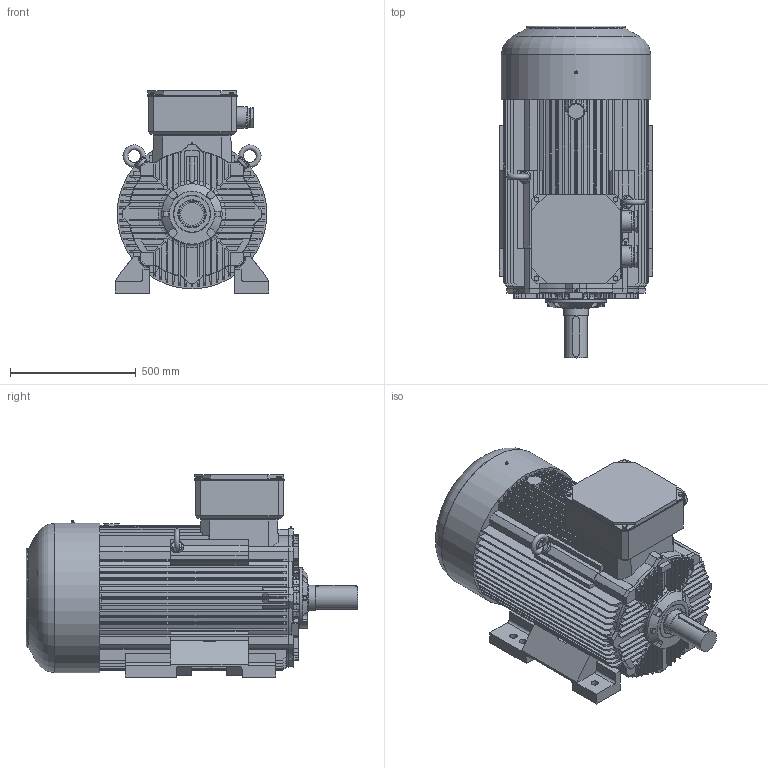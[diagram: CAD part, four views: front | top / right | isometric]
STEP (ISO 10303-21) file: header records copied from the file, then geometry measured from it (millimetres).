
FILE_DESCRIPTION( ( 'Unknown' ), '1' );
FILE_NAME( 'C:/Documents and Settings/kwalica/Pulpit/2,3 SIE paczka/3SIE 315/STP/2SIE315_M6D.stp', 'Unknown', ( 'Unknown' ), ( 'Unknown' ), 'XStep 1.0', 'Unknown', ' ' );
FILE_SCHEMA( ( 'CONFIG_CONTROL_DESIGN' ) );
Length unit declared in the file: millimetre
Products named in the file (5): 1; 2; 3; 4; 5
Bounding box: 610.02 x 1320 x 804.5 mm (x, y, z)
Volume: 284672609.6 mm3; surface area: 6932408.4 mm2
Topology: 5 solids, 21 shells, 1467 faces, 4004 edges, 2637 vertices
Faces by surface type: plane 970, cylinder 304, cone 98, torus 79, bspline 16
Full cylindrical faces by diameter (mm): 1.6 x2, 5 x3, 10.106 x4, 13.835 x1, 16.63 x4, 24 x4, 28 x6, 50 x2, 55 x2, 57 x4, 65 x4, 70 x2, 71 x6, 72 x2, 72.752 x2, 76 x2, 85 x2, 89.5 x1, 90 x2, 99.4 x1, 99.9 x1, 100 x1, 111.399 x1, 112 x1, 119.4 x1, 119.999 x1, 131.399 x1, 132 x1, 139.4 x1, 139.999 x1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
Entity records: 54722 total; most frequent: CARTESIAN_POINT 18053, ORIENTED_EDGE 7672, DIRECTION 7337, EDGE_CURVE 3836, VERTEX_POINT 2591, LINE 2449, VECTOR 2449, AXIS2_PLACEMENT_3D 2444
